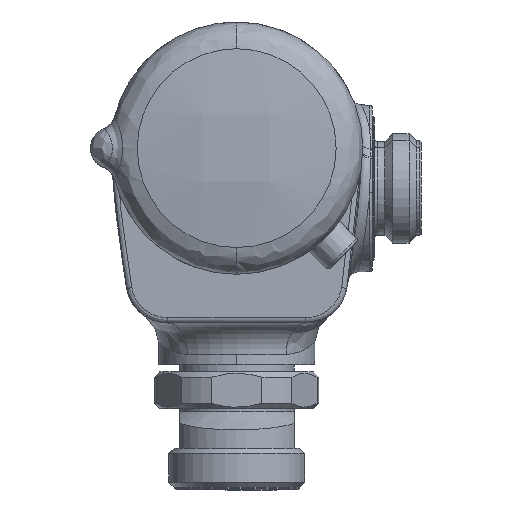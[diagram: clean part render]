
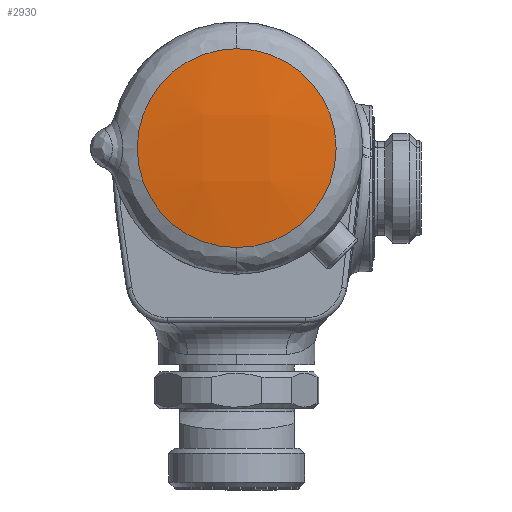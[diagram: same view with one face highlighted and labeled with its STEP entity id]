
A CAD part, left-side view. The second image highlights one B-rep face of the part: STEP entity #2930.
In plain terms, the highlighted free-form (B-spline) face has degree [3, 3] with [4, 4] control points.
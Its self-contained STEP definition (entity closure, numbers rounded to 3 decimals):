
#1012 = CARTESIAN_POINT ( 'NONE',  ( -105.77, 282.689, 512.852 ) ) ;
#1252 = VERTEX_POINT ( 'NONE', #3673 ) ;
#1269 = CARTESIAN_POINT ( 'NONE',  ( -103.391, 289.264, 519.287 ) ) ;
#1651 = EDGE_CURVE ( 'NONE', #1252, #5974, #10710, .T. ) ;
#1850 = CARTESIAN_POINT ( 'NONE',  ( -101.914, 270.055, 500.008 ) ) ;
#1888 = CARTESIAN_POINT ( 'NONE',  ( -105.774, 295.757, 512.852 ) ) ;
#2650 = DIRECTION ( 'NONE',  ( 1., 0., 0. ) ) ;
#2723 = CARTESIAN_POINT ( 'NONE',  ( -101.926, 308.393, 500.008 ) ) ;
#2798 = CARTESIAN_POINT ( 'NONE',  ( -103.818, 269.767, 512.852 ) ) ;
#2930 = ADVANCED_FACE ( 'NONE', ( #9334 ), #9970, .T. ) ;
#3648 = CARTESIAN_POINT ( 'NONE',  ( -103.837, 282.786, 500.008 ) ) ;
#3673 = CARTESIAN_POINT ( 'NONE',  ( -103.391, 289.264, 538.338 ) ) ;
#3785 = DIRECTION ( 'NONE',  ( 0., 0., -1. ) ) ;
#4404 = CARTESIAN_POINT ( 'NONE',  ( -101.908, 308.391, 538.68 ) ) ;
#4617 = AXIS2_PLACEMENT_3D ( 'NONE', #9604, #2650, #8610 ) ;
#4808 = EDGE_CURVE ( 'NONE', #5974, #1252, #9338, .T. ) ;
#5204 = AXIS2_PLACEMENT_3D ( 'NONE', #1269, #7373, #3785 ) ;
#5351 = CARTESIAN_POINT ( 'NONE',  ( -103.82, 282.787, 538.68 ) ) ;
#5393 = CARTESIAN_POINT ( 'NONE',  ( -105.769, 295.757, 525.839 ) ) ;
#5412 = CARTESIAN_POINT ( 'NONE',  ( -103.391, 289.264, 500.236 ) ) ;
#5974 = VERTEX_POINT ( 'NONE', #5412 ) ;
#6307 = CARTESIAN_POINT ( 'NONE',  ( -103.83, 308.68, 512.852 ) ) ;
#7050 = CARTESIAN_POINT ( 'NONE',  ( -103.841, 295.661, 500.008 ) ) ;
#7201 = CARTESIAN_POINT ( 'NONE',  ( -103.824, 308.679, 525.839 ) ) ;
#7373 = DIRECTION ( 'NONE',  ( 1., 0., 0. ) ) ;
#8468 = EDGE_LOOP ( 'NONE', ( #8946, #10394 ) ) ;
#8610 = DIRECTION ( 'NONE',  ( 0., 0., -1. ) ) ;
#8821 = CARTESIAN_POINT ( 'NONE',  ( -103.812, 269.768, 525.839 ) ) ;
#8900 = CARTESIAN_POINT ( 'NONE',  ( -103.824, 295.66, 538.68 ) ) ;
#8946 = ORIENTED_EDGE ( 'NONE', *, *, #4808, .F. ) ;
#9334 = FACE_OUTER_BOUND ( 'NONE', #8468, .T. ) ;
#9338 = CIRCLE ( 'NONE', #5204, 19.051 ) ;
#9604 = CARTESIAN_POINT ( 'NONE',  ( -103.391, 289.264, 519.287 ) ) ;
#9970 =( BOUNDED_SURFACE ( )  B_SPLINE_SURFACE ( 3, 3, ( 
 ( #1850, #3648, #7050, #2723 ),
 ( #2798, #1012, #1888, #6307 ),
 ( #8821, #10603, #5393, #7201 ),
 ( #10649, #5351, #8900, #4404 ) ),
 .UNSPECIFIED., .F., .F., .F. ) 
 B_SPLINE_SURFACE_WITH_KNOTS ( ( 4, 4 ),
 ( 4, 4 ),
 ( 0., 1. ),
 ( 0., 1. ),
 .UNSPECIFIED. ) 
 GEOMETRIC_REPRESENTATION_ITEM ( )  RATIONAL_B_SPLINE_SURFACE ( (
 ( 1., 0.993, 0.993, 1.),
 ( 0.993, 0.985, 0.985, 0.993),
 ( 0.993, 0.985, 0.985, 0.993),
 ( 1., 0.993, 0.993, 1.) ) ) 
 REPRESENTATION_ITEM ( '' )  SURFACE ( )  );
#10394 = ORIENTED_EDGE ( 'NONE', *, *, #1651, .F. ) ;
#10603 = CARTESIAN_POINT ( 'NONE',  ( -105.765, 282.689, 525.839 ) ) ;
#10649 = CARTESIAN_POINT ( 'NONE',  ( -101.896, 270.058, 538.68 ) ) ;
#10710 = CIRCLE ( 'NONE', #4617, 19.051 ) ;
